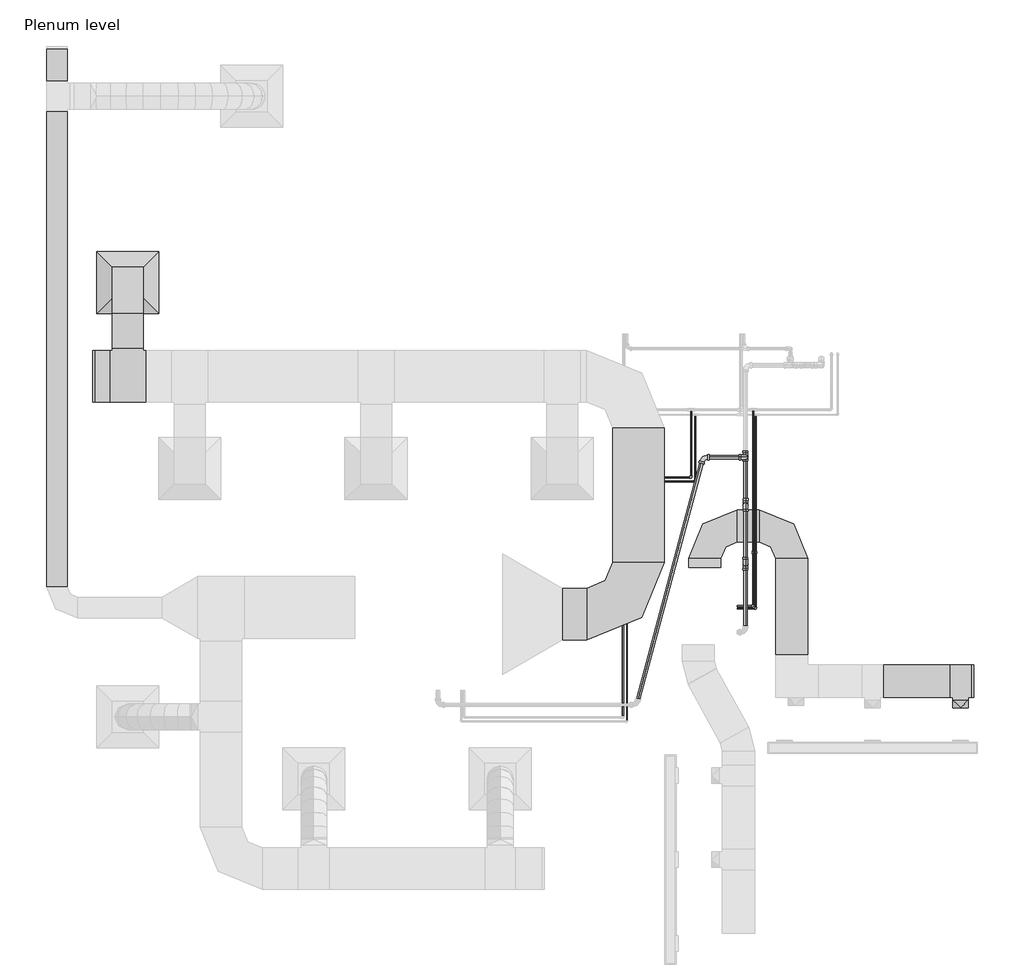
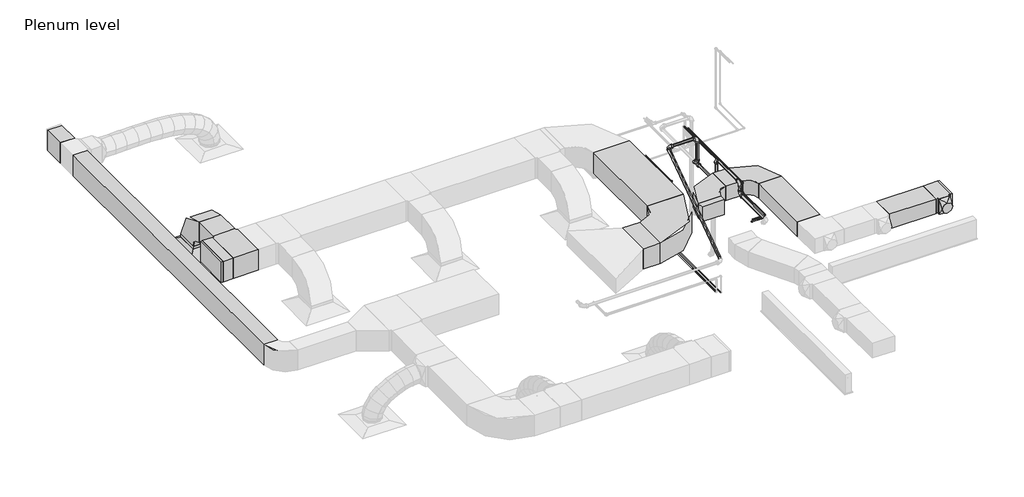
# One storey, part 3 of 5: 22 pipe segments, 17 pipe fittings, 11 duct segments, 9 duct fittings, 1 air terminal.
"""IFC4 building model written with IfcOpenShell, lengths in millimetres."""

from ifc_helpers import new_model, si_unit, point, frame, frame_2d, origin, place, context, project, spatial, polyline, circle_curve, trimmed, segment, composite_curve, outline, extrude, transform, mapped, element, save
from components import m_return_diffuser_600_x_600_face_300_x_300_connection_ff221211, m_rectangular_elbow_radius_1_w_01ab3e9f, m_rectangular_elbow_radius_1_w_abe20169, m_rectangular_elbow_radius_1_w_618da153, m_rectangular_endcap_standard_8fce0436, m_rectangular_endcap_standard_72d4d00d, m_rectangular_tee_standard_e86e679a, m_rectangular_tee_standard_67f42514, m_rectangular_to_round_transition_angle_45_degree_d6eaa12c, m_bend_pvc_sch_40_dwv_standard_04e582cf, m_bend_pvc_sch_40_dwv_standard_2cf6a8d3, m_elbow_welded_generic_standard_3d1f096c, m_elbow_welded_generic_standard_8e0ccdf9, m_tee_sanitary_pvc_sch_40_dwv_standard_e0c783f1

model = new_model("IFC4")

# Units and contexts
model_context = context("Model", 3, world=origin())
ifc_project = project(units=[si_unit("LENGTHUNIT", "METRE", prefix="MILLI")], contexts=[model_context])

# Site, building, storey
site = spatial("IfcSite", under=ifc_project)
building = spatial("IfcBuilding", under=site)
storey = spatial("IfcBuildingStorey", under=building, Name="Plenum level", Elevation=2500.0)

# Air terminal
placement = place(None, origin())
m_return_diffuser_600_x_600_face_300_x_300_connection_shape = m_return_diffuser_600_x_600_face_300_x_300_connection_ff221211(model_context)
element("IfcAirTerminal", 1, ObjectType="M_Return Diffuser : 600 x 600 Face 300 x 300 Connection", at=placement, inside=storey, context=model_context, shape_type="MappedRepresentation", body=[
    mapped(m_return_diffuser_600_x_600_face_300_x_300_connection_shape, transform((-16262.9123896, 1344.5675672, 2500.0), x_axis=(1.0, 0.0, 0.0), y_axis=(0.0, 1.0, 0.0), z_axis=(0.0, 0.0, 1.0))),
])

# Duct fittings
m_rectangular_elbow_radius_1_w_shape = m_rectangular_elbow_radius_1_w_01ab3e9f(model_context)
element("IfcDuctFitting", 2, ObjectType="M_Rectangular Elbow - Radius : 1 W", at=placement, inside=storey, context=model_context, shape_type="MappedRepresentation", body=[
    mapped(m_rectangular_elbow_radius_1_w_shape, transform((-10685.2201033, -1010.0331325, 2741.2027987), x_axis=(-1.0, 0.0, 0.0), y_axis=(0.0, -0.9999999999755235, -6.9966481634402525e-06), z_axis=(0.0, -6.9966481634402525e-06, 0.9999999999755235))),
])
element("IfcDuctFitting", 3, ObjectType="M_Rectangular Elbow - Radius : 1 W", at=placement, inside=storey, context=model_context, shape_type="MappedRepresentation", body=[
    mapped(m_rectangular_elbow_radius_1_w_shape, transform((-9845.2201033, -1010.0331325, 2741.2027987), x_axis=(0.0, 1.0, 0.0), y_axis=(-1.0, 0.0, 0.0), z_axis=(0.0, 0.0, 1.0))),
])
m_rectangular_elbow_radius_1_w_2_shape = m_rectangular_elbow_radius_1_w_abe20169(model_context)
element("IfcDuctFitting", 4, ObjectType="M_Rectangular Elbow - Radius : 1 W", at=placement, inside=storey, context=model_context, shape_type="MappedRepresentation", body=[
    mapped(m_rectangular_elbow_radius_1_w_2_shape, transform((-11325.0225036, -1861.9074328, 2941.2), x_axis=(1.0, 0.0, 0.0), y_axis=(0.0, 1.0, 0.0), z_axis=(0.0, 0.0, 1.0))),
])
m_rectangular_elbow_radius_1_w_3_shape = m_rectangular_elbow_radius_1_w_618da153(model_context)
element("IfcDuctFitting", 5, ObjectType="M_Rectangular Elbow - Radius : 1 W", at=placement, inside=storey, context=model_context, shape_type="MappedRepresentation", body=[
    mapped(m_rectangular_elbow_radius_1_w_3_shape, transform((-16262.9123896, 1344.5675672, 2941.2), x_axis=(0.0, 1.0, 0.0), y_axis=(0.0, 0.0, -1.0), z_axis=(-1.0, 0.0, 0.0))),
])
m_rectangular_endcap_standard_shape = m_rectangular_endcap_standard_8fce0436(model_context)
element("IfcDuctFitting", 6, ObjectType="M_Rectangular Endcap : Standard", at=placement, inside=storey, context=model_context, shape_type="MappedRepresentation", body=[
    mapped(m_rectangular_endcap_standard_shape, transform((-8112.4123896, -2510.0324328, 2741.2027987), x_axis=(1.0, 0.0, 0.0), y_axis=(0.0, 1.0, 0.0), z_axis=(0.0, 0.0, 1.0))),
])
m_rectangular_endcap_standard_2_shape = m_rectangular_endcap_standard_72d4d00d(model_context)
element("IfcDuctFitting", 7, ObjectType="M_Rectangular Endcap : Standard", at=placement, inside=storey, context=model_context, shape_type="MappedRepresentation", body=[
    mapped(m_rectangular_endcap_standard_2_shape, transform((-16577.9123896, 438.0925672, 2941.2), x_axis=(-1.0, 0.0, 0.0), y_axis=(0.0, -1.0, 0.0), z_axis=(0.0, 0.0, 1.0))),
])
m_rectangular_tee_standard_shape = m_rectangular_tee_standard_e86e679a(model_context)
element("IfcDuctFitting", 8, ObjectType="M_Rectangular Tee : Standard", at=placement, inside=storey, context=model_context, shape_type="MappedRepresentation", body=[
    mapped(m_rectangular_tee_standard_shape, transform((-8212.4123896, -2510.0324328, 2741.2027987), x_axis=(1.0, 0.0, 0.0), y_axis=(0.0, 1.0, 0.0), z_axis=(0.0, 0.0, 1.0))),
])
m_rectangular_tee_standard_2_shape = m_rectangular_tee_standard_67f42514(model_context)
element("IfcDuctFitting", 9, ObjectType="M_Rectangular Tee : Standard", at=placement, inside=storey, context=model_context, shape_type="MappedRepresentation", body=[
    mapped(m_rectangular_tee_standard_2_shape, transform((-16262.9123896, 438.0925672, 2941.2), x_axis=(-1.0, 0.0, 0.0), y_axis=(0.0, -1.0, 0.0), z_axis=(0.0, 0.0, 1.0))),
])
m_rectangular_to_round_transition_angle_45_degree_shape = m_rectangular_to_round_transition_angle_45_degree_d6eaa12c(model_context)
element("IfcDuctFitting", 10, ObjectType="M_Rectangular to Round Transition - Angle : 45 Degree", at=placement, inside=storey, context=model_context, shape_type="MappedRepresentation", body=[
    mapped(m_rectangular_to_round_transition_angle_45_degree_shape, transform((-8212.4123896, -2690.9699328, 2741.2027987), x_axis=(0.0, -1.0, 0.0), y_axis=(1.0, 0.0, 0.0), z_axis=(0.0, 0.0, 1.0))),
])

# Duct segments
element("IfcDuctSegment", 11, ObjectType="Default", at=placement, inside=storey, context=model_context, shape_type="SweptSolid", body=[
    extrude(outline(polyline([(-10529.2826033, -1410.0324328), (-10841.1576033, -1410.0324328), (-10841.1576033, -1321.9081325), (-10529.2826033, -1321.9081325), (-10529.2826033, -1410.0324328)])), frame((0.0, 0.0, 2634.05), z_axis=(0.0, 0.0, 1.0), x_axis=(1.0, 0.0, 0.0)), (0.0, 0.0, 1.0), 214.3),
])
element("IfcDuctSegment", 12, ObjectType="Default", at=placement, inside=storey, context=model_context, shape_type="SweptSolid", body=[
    extrude(outline(polyline([(-10373.3451033, -1165.9706325), (-10373.3451033, -854.0956325), (-10157.0951033, -854.0956325), (-10157.0951033, -1165.9706325), (-10373.3451033, -1165.9706325)])), frame((0.0, 0.0, 2634.0527987), z_axis=(0.0, 0.0, 1.0), x_axis=(1.0, 0.0, 0.0)), (0.0, 0.0, 1.0), 214.3),
])
element("IfcDuctSegment", 13, ObjectType="Default", at=placement, inside=storey, context=model_context, shape_type="SweptSolid", body=[
    extrude(outline(polyline([(-10001.1576033, -1321.9081325), (-9689.2826033, -1321.9081325), (-9689.2826033, -2254.0949328), (-10001.1576033, -2254.0949328), (-10001.1576033, -1321.9081325)])), frame((0.0, 0.0, 2634.0527987), z_axis=(0.0, 0.0, 1.0), x_axis=(1.0, 0.0, 0.0)), (0.0, 0.0, 1.0), 214.3),
])
element("IfcDuctSegment", 14, ObjectType="Default", at=placement, inside=storey, context=model_context, shape_type="SweptSolid", body=[
    extrude(outline(polyline([(-8962.9123896, -2665.9699328), (-8962.9123896, -2354.0949328), (-8312.4123896, -2354.0949328), (-8312.4123896, -2665.9699328), (-8962.9123896, -2665.9699328)])), frame((0.0, 0.0, 2634.0527987), z_axis=(0.0, 0.0, 1.0), x_axis=(1.0, 0.0, 0.0)), (0.0, 0.0, 1.0), 214.3),
])
element("IfcDuctSegment", 15, ObjectType="Default", at=placement, inside=storey, context=model_context, shape_type="SweptSolid", body=[
    extrude(outline(polyline([(-16847.2723444, 3294.5675672), (-17047.2723444, 3294.5675672), (-17047.2723444, 3601.5909932), (-16847.2723444, 3601.5909932), (-16847.2723444, 3294.5675672)])), frame((0.0, 0.0, 2815.8858813), z_axis=(0.0, 0.0, 1.0), x_axis=(1.0, 0.0, 0.0)), (0.0, 0.0, 1.0), 300.0),
])
element("IfcDuctSegment", 16, ObjectType="Default", at=placement, inside=storey, context=model_context, shape_type="SweptSolid", body=[
    extrude(outline(polyline([(0.0, -200.0), (0.0, 0.0), (4592.9750001, 0.0), (4592.9750001, -200.0), (0.0, -200.0)])), frame((-17047.2723444, -1598.4066458, 2815.8602097), z_axis=(0.0, -5.246621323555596e-06, 0.9999999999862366), x_axis=(0.0, 0.9999999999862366, 5.246621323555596e-06)), (0.0, 0.0, 1.0), 300.0),
])
element("IfcDuctSegment", 17, ObjectType="Default", at=placement, inside=storey, context=model_context, shape_type="SweptSolid", body=[
    extrude(outline(polyline([(-12065.0225036, -2111.9074328), (-12065.0225036, -1611.9074328), (-11825.0225036, -1611.9074328), (-11825.0225036, -2111.9074328), (-12065.0225036, -2111.9074328)])), frame((0.0, 0.0, 2791.2), z_axis=(0.0, 0.0, 1.0), x_axis=(1.0, 0.0, 0.0)), (0.0, 0.0, 1.0), 300.0),
])
element("IfcDuctSegment", 18, ObjectType="Default", at=placement, inside=storey, context=model_context, shape_type="SweptSolid", body=[
    extrude(outline(polyline([(-11075.0225036, -1361.9074328), (-11575.0225036, -1361.9074328), (-11575.0225036, -61.9074328), (-11075.0225036, -61.9074328), (-11075.0225036, -1361.9074328)])), frame((0.0, 0.0, 2791.2), z_axis=(0.0, 0.0, 1.0), x_axis=(1.0, 0.0, 0.0)), (0.0, 0.0, 1.0), 300.0),
])
element("IfcDuctSegment", 19, ObjectType="Default", at=placement, inside=storey, context=model_context, shape_type="SweptSolid", body=[
    extrude(outline(polyline([(-16437.9123896, 688.0925672), (-16437.9123896, 188.0925672), (-16577.9123896, 188.0925672), (-16577.9123896, 688.0925672), (-16437.9123896, 688.0925672)])), frame((0.0, 0.0, 2791.2), z_axis=(0.0, 0.0, 1.0), x_axis=(1.0, 0.0, 0.0)), (0.0, 0.0, 1.0), 300.0),
])
element("IfcDuctSegment", 20, ObjectType="Default", at=placement, inside=storey, context=model_context, shape_type="SweptSolid", body=[
    extrude(outline(polyline([(-16112.9123896, 1194.5675672), (-16412.9123896, 1194.5675672), (-16412.9123896, 1494.5675672), (-16112.9123896, 1494.5675672), (-16112.9123896, 1194.5675672)])), frame((0.0, 0.0, 2601.6), z_axis=(0.0, 0.0, 1.0), x_axis=(1.0, 0.0, 0.0)), (0.0, 0.0, 1.0), 39.6),
])
element("IfcDuctSegment", 21, ObjectType="Default", at=placement, inside=storey, context=model_context, shape_type="SweptSolid", body=[
    extrude(outline(polyline([(-16112.9123896, 713.0925672), (-16412.9123896, 713.0925672), (-16412.9123896, 1044.5675672), (-16112.9123896, 1044.5675672), (-16112.9123896, 713.0925672)])), frame((0.0, 0.0, 2791.2), z_axis=(0.0, 0.0, 1.0), x_axis=(1.0, 0.0, 0.0)), (0.0, 0.0, 1.0), 300.0),
])

# Pipe fittings
m_bend_pvc_sch_40_dwv_standard_shape = m_bend_pvc_sch_40_dwv_standard_04e582cf(model_context)
element("IfcPipeFitting", 22, ObjectType="M_Bend - PVC - Sch 40 - DWV : Standard", at=placement, inside=storey, context=model_context, shape_type="MappedRepresentation", body=[
    mapped(m_bend_pvc_sch_40_dwv_standard_shape, transform((-10292.1201033, -344.5113836, 3033.3), x_axis=(0.0, 0.0, 1.0), y_axis=(-1.0, 0.0, 0.0), z_axis=(0.0, -1.0, 0.0))),
])
element("IfcPipeFitting", 23, ObjectType="M_Bend - PVC - Sch 40 - DWV : Standard", at=placement, inside=storey, context=model_context, shape_type="MappedRepresentation", body=[
    mapped(m_bend_pvc_sch_40_dwv_standard_shape, transform((-10292.1201033, -1375.4324328, 2833.3), x_axis=(0.0, 1.0, 0.0), y_axis=(0.0, 0.0, 1.0), z_axis=(1.0, 0.0, 0.0))),
])
element("IfcPipeFitting", 24, ObjectType="M_Bend - PVC - Sch 40 - DWV : Standard", at=placement, inside=storey, context=model_context, shape_type="MappedRepresentation", body=[
    mapped(m_bend_pvc_sch_40_dwv_standard_shape, transform((-10292.1201033, -1375.4324328, 3000.0), x_axis=(0.0, 0.0, 1.0), y_axis=(0.0, 1.0, 0.0), z_axis=(-1.0, 0.0, 0.0))),
])
element("IfcPipeFitting", 25, ObjectType="M_Bend - PVC - Sch 40 - DWV : Standard", at=placement, inside=storey, context=model_context, shape_type="MappedRepresentation", body=[
    mapped(m_bend_pvc_sch_40_dwv_standard_shape, transform((-10292.1201033, -805.4324328, 3000.0), x_axis=(0.0, 1.0, 0.0), y_axis=(0.0, 0.0, -1.0), z_axis=(-1.0, 0.0, 0.0))),
])
element("IfcPipeFitting", 26, ObjectType="M_Bend - PVC - Sch 40 - DWV : Standard", at=placement, inside=storey, context=model_context, shape_type="MappedRepresentation", body=[
    mapped(m_bend_pvc_sch_40_dwv_standard_shape, transform((-10292.1201033, -805.4324328, 2650.0), x_axis=(0.0, 0.0, -1.0), y_axis=(0.0, 1.0, 0.0), z_axis=(1.0, 0.0, 0.0))),
])
m_bend_pvc_sch_40_dwv_standard_2_shape = m_bend_pvc_sch_40_dwv_standard_2cf6a8d3(model_context)
element("IfcPipeFitting", 27, ObjectType="M_Bend - PVC - Sch 40 - DWV : Standard", at=placement, inside=storey, context=model_context, shape_type="MappedRepresentation", body=[
    mapped(m_bend_pvc_sch_40_dwv_standard_2_shape, transform((-10701.7518359, -344.5113836, 3033.3), x_axis=(-1.0, 0.0, 0.0), y_axis=(0.0, -1.0, 0.0), z_axis=(0.0, 0.0, 1.0))),
])
m_elbow_welded_generic_standard_shape = m_elbow_welded_generic_standard_3d1f096c(model_context)
element("IfcPipeFitting", 28, ObjectType="M_Elbow - Welded - Generic : Standard", at=placement, inside=storey, context=model_context, shape_type="MappedRepresentation", body=[
    mapped(m_elbow_welded_generic_standard_shape, transform((-10217.1229021, -1785.4324328, 2700.0043378), x_axis=(0.9999999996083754, 0.0, 2.7986593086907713e-05), y_axis=(0.0, 1.0000000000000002, 0.0), z_axis=(-2.7986593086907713e-05, 0.0, 0.9999999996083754))),
])
element("IfcPipeFitting", 29, ObjectType="M_Elbow - Welded - Generic : Standard", at=placement, inside=storey, context=model_context, shape_type="MappedRepresentation", body=[
    mapped(m_elbow_welded_generic_standard_shape, transform((-10217.1229021, -1265.4324328, 2700.0043378), x_axis=(0.0, 1.0, 0.0), y_axis=(0.0, 0.0, 1.0), z_axis=(1.0, 0.0, 0.0))),
])
element("IfcPipeFitting", 30, ObjectType="M_Elbow - Welded - Generic : Standard", at=placement, inside=storey, context=model_context, shape_type="MappedRepresentation", body=[
    mapped(m_elbow_welded_generic_standard_shape, transform((-11476.7873896, -540.0074328, 2700.0), x_axis=(-1.0, 0.0, 0.0), y_axis=(0.0, -1.0, 0.0), z_axis=(0.0, 0.0, 1.0))),
])
element("IfcPipeFitting", 31, ObjectType="M_Elbow - Welded - Generic : Standard", at=placement, inside=storey, context=model_context, shape_type="MappedRepresentation", body=[
    mapped(m_elbow_welded_generic_standard_shape, transform((-10816.7873896, -540.0074328, 2700.0), x_axis=(1.0, 0.0, 0.0), y_axis=(0.0, 1.0, 0.0), z_axis=(0.0, 0.0, 1.0))),
])
element("IfcPipeFitting", 32, ObjectType="M_Elbow - Welded - Generic : Standard", at=placement, inside=storey, context=model_context, shape_type="MappedRepresentation", body=[
    mapped(m_elbow_welded_generic_standard_shape, transform((-10217.1201033, -1265.4324328, 2900.0), x_axis=(0.0, 0.0, 1.0), y_axis=(0.0, 1.0, 0.0), z_axis=(-1.0, 0.0, 0.0))),
])
m_elbow_welded_generic_standard_2_shape = m_elbow_welded_generic_standard_8e0ccdf9(model_context)
element("IfcPipeFitting", 33, ObjectType="M_Elbow - Welded - Generic : Standard", at=placement, inside=storey, context=model_context, shape_type="MappedRepresentation", body=[
    mapped(m_elbow_welded_generic_standard_2_shape, transform((-10192.1221024, -1810.4324328, 2750.8035982), x_axis=(0.9999999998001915, 0.0, 1.9990423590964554e-05), y_axis=(0.0, 1.0, 0.0), z_axis=(-1.9990423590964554e-05, 0.0, 0.9999999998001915))),
])
element("IfcPipeFitting", 34, ObjectType="M_Elbow - Welded - Generic : Standard", at=placement, inside=storey, context=model_context, shape_type="MappedRepresentation", body=[
    mapped(m_elbow_welded_generic_standard_2_shape, transform((-10192.1221024, -1265.4324328, 2750.8035982), x_axis=(0.0, 1.0, 0.0), y_axis=(0.0, 0.0, 1.0), z_axis=(1.0, 0.0, 0.0))),
])
element("IfcPipeFitting", 35, ObjectType="M_Elbow - Welded - Generic : Standard", at=placement, inside=storey, context=model_context, shape_type="MappedRepresentation", body=[
    mapped(m_elbow_welded_generic_standard_2_shape, transform((-11438.6873896, -580.0074328, 2700.0), x_axis=(-1.0, 0.0, 0.0), y_axis=(0.0, -1.0, 0.0), z_axis=(0.0, 0.0, 1.0))),
])
element("IfcPipeFitting", 36, ObjectType="M_Elbow - Welded - Generic : Standard", at=placement, inside=storey, context=model_context, shape_type="MappedRepresentation", body=[
    mapped(m_elbow_welded_generic_standard_2_shape, transform((-10778.6873896, -580.0074328, 2700.0), x_axis=(1.0, 0.0, 0.0), y_axis=(0.0, 1.0, 0.0), z_axis=(0.0, 0.0, 1.0))),
])
element("IfcPipeFitting", 37, ObjectType="M_Elbow - Welded - Generic : Standard", at=placement, inside=storey, context=model_context, shape_type="MappedRepresentation", body=[
    mapped(m_elbow_welded_generic_standard_2_shape, transform((-10192.1201033, -1265.4324328, 2900.0), x_axis=(0.0, 0.0, 1.0), y_axis=(0.0, 1.0, 0.0), z_axis=(-1.0, 0.0, 0.0))),
])
m_tee_sanitary_pvc_sch_40_dwv_standard_shape = m_tee_sanitary_pvc_sch_40_dwv_standard_e0c783f1(model_context)
element("IfcPipeFitting", 38, ObjectType="M_Tee Sanitary - PVC - Sch 40 - DWV : Standard", at=placement, inside=storey, context=model_context, shape_type="MappedRepresentation", body=[
    mapped(m_tee_sanitary_pvc_sch_40_dwv_standard_shape, transform((-10292.1201033, -344.5113836, 2650.0), x_axis=(0.0, -1.0, 0.0), y_axis=(0.0, 0.0, -1.0), z_axis=(1.0, 0.0, 0.0))),
])

# Pipe segments
element("IfcPipeSegment", 39, ObjectType="COPPER PIPE", at=placement, inside=storey, context=model_context, shape_type="SweptSolid", body=[
    extrude(outline(composite_curve([segment(trimmed(circle_curve(frame_2d((0.0, 6.5)), 6.5), [point((-6.5, 6.5))], [point((0.0, 13.0))], False, "CARTESIAN"), True, "CONTINUOUS"), segment(trimmed(circle_curve(frame_2d((0.0, 6.5)), 6.5), [point((0.0, 13.0))], [point((6.5, 6.5))], False, "CARTESIAN"), True, "CONTINUOUS"), segment(trimmed(circle_curve(frame_2d((0.0, 6.5)), 6.5), [point((6.5, 6.5))], [point((0.0, 0.0))], False, "CARTESIAN"), True, "CONTINUOUS"), segment(trimmed(circle_curve(frame_2d((0.0, 6.5)), 6.5), [point((0.0, 0.0))], [point((-6.5, 6.5))], False, "CARTESIAN"), True, "CONTINUOUS")], self_intersect=False)), frame((-10372.1199214, -1785.4324328, 2693.5), z_axis=(0.9999999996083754, 0.0, 2.798659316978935e-05), x_axis=(0.0, 1.0, 0.0)), (0.0, 0.0, 1.0), 140.2382169),
])
element("IfcPipeSegment", 40, ObjectType="COPPER PIPE", at=placement, inside=storey, context=model_context, shape_type="SweptSolid", body=[
    extrude(outline(composite_curve([segment(trimmed(circle_curve(frame_2d((2700.0043378, -10217.1229021)), 6.5), [point((2700.0043378, -10210.6229021))], [point((2706.5043378, -10217.1229021))], False, "CARTESIAN"), True, "CONTINUOUS"), segment(trimmed(circle_curve(frame_2d((2700.0043378, -10217.1229021)), 6.5), [point((2706.5043378, -10217.1229021))], [point((2700.0043378, -10223.6229021))], False, "CARTESIAN"), True, "CONTINUOUS"), segment(trimmed(circle_curve(frame_2d((2700.0043378, -10217.1229021)), 6.5), [point((2700.0043378, -10223.6229021))], [point((2693.5043378, -10217.1229021))], False, "CARTESIAN"), True, "CONTINUOUS"), segment(trimmed(circle_curve(frame_2d((2700.0043378, -10217.1229021)), 6.5), [point((2693.5043378, -10217.1229021))], [point((2700.0043378, -10210.6229021))], False, "CARTESIAN"), True, "CONTINUOUS")], self_intersect=False)), frame((0.0, -1770.6734484, 0.0), z_axis=(0.0, 1.0, 0.0), x_axis=(0.0, 0.0, 1.0)), (0.0, 0.0, 1.0), 490.4820313),
])
element("IfcPipeSegment", 41, ObjectType="COPPER PIPE", at=placement, inside=storey, context=model_context, shape_type="SweptSolid", body=[
    extrude(outline(composite_curve([segment(trimmed(circle_curve(frame_2d((0.0, 3.5)), 3.5), [point((-3.5, 3.5))], [point((0.0, 7.0))], False, "CARTESIAN"), True, "CONTINUOUS"), segment(trimmed(circle_curve(frame_2d((0.0, 3.5)), 3.5), [point((0.0, 7.0))], [point((3.5, 3.5))], False, "CARTESIAN"), True, "CONTINUOUS"), segment(trimmed(circle_curve(frame_2d((0.0, 3.5)), 3.5), [point((3.5, 3.5))], [point((0.0, 0.0))], False, "CARTESIAN"), True, "CONTINUOUS"), segment(trimmed(circle_curve(frame_2d((0.0, 3.5)), 3.5), [point((0.0, 0.0))], [point((-3.5, 3.5))], False, "CARTESIAN"), True, "CONTINUOUS")], self_intersect=False)), frame((-10372.1200333, -1810.4324328, 2747.3), z_axis=(0.9999999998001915, 0.0, 1.999042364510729e-05), x_axis=(0.0, 1.0, 0.0)), (0.0, 0.0, 1.0), 168.3890165),
])
element("IfcPipeSegment", 42, ObjectType="COPPER PIPE", at=placement, inside=storey, context=model_context, shape_type="SweptSolid", body=[
    extrude(outline(composite_curve([segment(trimmed(circle_curve(frame_2d((2750.8035982, -10192.1221024)), 3.5), [point((2750.8035982, -10188.6221024))], [point((2754.3035982, -10192.1221024))], False, "CARTESIAN"), True, "CONTINUOUS"), segment(trimmed(circle_curve(frame_2d((2750.8035982, -10192.1221024)), 3.5), [point((2754.3035982, -10192.1221024))], [point((2750.8035982, -10195.6221024))], False, "CARTESIAN"), True, "CONTINUOUS"), segment(trimmed(circle_curve(frame_2d((2750.8035982, -10192.1221024)), 3.5), [point((2750.8035982, -10195.6221024))], [point((2747.3035982, -10192.1221024))], False, "CARTESIAN"), True, "CONTINUOUS"), segment(trimmed(circle_curve(frame_2d((2750.8035982, -10192.1221024)), 3.5), [point((2747.3035982, -10192.1221024))], [point((2750.8035982, -10188.6221024))], False, "CARTESIAN"), True, "CONTINUOUS")], self_intersect=False)), frame((0.0, -1798.8234484, 0.0), z_axis=(0.0, 1.0, 0.0), x_axis=(0.0, 0.0, 1.0)), (0.0, 0.0, 1.0), 521.7820313),
])
element("IfcPipeSegment", 43, ObjectType="COPPER PIPE", at=placement, inside=storey, context=model_context, shape_type="SweptSolid", body=[
    extrude(outline(composite_curve([segment(trimmed(circle_curve(frame_2d((2900.0, -10217.1201033)), 6.5), [point((2900.0, -10210.6201033))], [point((2906.5, -10217.1201033))], False, "CARTESIAN"), True, "CONTINUOUS"), segment(trimmed(circle_curve(frame_2d((2900.0, -10217.1201033)), 6.5), [point((2906.5, -10217.1201033))], [point((2900.0, -10223.6201033))], False, "CARTESIAN"), True, "CONTINUOUS"), segment(trimmed(circle_curve(frame_2d((2900.0, -10217.1201033)), 6.5), [point((2900.0, -10223.6201033))], [point((2893.5, -10217.1201033))], False, "CARTESIAN"), True, "CONTINUOUS"), segment(trimmed(circle_curve(frame_2d((2900.0, -10217.1201033)), 6.5), [point((2893.5, -10217.1201033))], [point((2900.0, -10210.6201033))], False, "CARTESIAN"), True, "CONTINUOUS")], self_intersect=False)), frame((0.0, -1250.6734484, 0.0), z_axis=(0.0, 1.0, 0.0), x_axis=(0.0, 0.0, 1.0)), (0.0, 0.0, 1.0), 1350.4820313),
])
element("IfcPipeSegment", 44, ObjectType="COPPER PIPE", at=placement, inside=storey, context=model_context, shape_type="SweptSolid", body=[
    extrude(outline(composite_curve([segment(trimmed(circle_curve(frame_2d((0.0, 6.5)), 6.5), [point((-6.5, 6.5))], [point((0.0, 13.0))], False, "CARTESIAN"), True, "CONTINUOUS"), segment(trimmed(circle_curve(frame_2d((0.0, 6.5)), 6.5), [point((0.0, 13.0))], [point((6.5, 6.5))], False, "CARTESIAN"), True, "CONTINUOUS"), segment(trimmed(circle_curve(frame_2d((0.0, 6.5)), 6.5), [point((6.5, 6.5))], [point((0.0, 0.0))], False, "CARTESIAN"), True, "CONTINUOUS"), segment(trimmed(circle_curve(frame_2d((0.0, 6.5)), 6.5), [point((0.0, 0.0))], [point((-6.5, 6.5))], False, "CARTESIAN"), True, "CONTINUOUS")], self_intersect=False)), frame((-10217.1229021, -1271.9324328, 2714.7633222), z_axis=(1.6417284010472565e-05, 0.0, 0.9999999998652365), x_axis=(0.9999999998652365, 0.0, -1.6417284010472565e-05)), (0.0, 0.0, 1.0), 170.4776934),
])
element("IfcPipeSegment", 45, ObjectType="COPPER PIPE", at=placement, inside=storey, context=model_context, shape_type="SweptSolid", body=[
    extrude(outline(composite_curve([segment(trimmed(circle_curve(frame_2d((2900.0, -10192.1201033)), 3.5), [point((2900.0, -10188.6201033))], [point((2903.5, -10192.1201033))], False, "CARTESIAN"), True, "CONTINUOUS"), segment(trimmed(circle_curve(frame_2d((2900.0, -10192.1201033)), 3.5), [point((2903.5, -10192.1201033))], [point((2900.0, -10195.6201033))], False, "CARTESIAN"), True, "CONTINUOUS"), segment(trimmed(circle_curve(frame_2d((2900.0, -10192.1201033)), 3.5), [point((2900.0, -10195.6201033))], [point((2896.5, -10192.1201033))], False, "CARTESIAN"), True, "CONTINUOUS"), segment(trimmed(circle_curve(frame_2d((2900.0, -10192.1201033)), 3.5), [point((2896.5, -10192.1201033))], [point((2900.0, -10188.6201033))], False, "CARTESIAN"), True, "CONTINUOUS")], self_intersect=False)), frame((0.0, -1253.8234484, 0.0), z_axis=(0.0, 1.0, 0.0), x_axis=(0.0, 0.0, 1.0)), (0.0, 0.0, 1.0), 1306.7820313),
])
element("IfcPipeSegment", 46, ObjectType="COPPER PIPE", at=placement, inside=storey, context=model_context, shape_type="SweptSolid", body=[
    extrude(outline(composite_curve([segment(trimmed(circle_curve(frame_2d((0.0, 3.5)), 3.5), [point((-3.5, 3.5))], [point((0.0, 7.0))], False, "CARTESIAN"), True, "CONTINUOUS"), segment(trimmed(circle_curve(frame_2d((0.0, 3.5)), 3.5), [point((0.0, 7.0))], [point((3.5, 3.5))], False, "CARTESIAN"), True, "CONTINUOUS"), segment(trimmed(circle_curve(frame_2d((0.0, 3.5)), 3.5), [point((3.5, 3.5))], [point((0.0, 0.0))], False, "CARTESIAN"), True, "CONTINUOUS"), segment(trimmed(circle_curve(frame_2d((0.0, 3.5)), 3.5), [point((0.0, 0.0))], [point((-3.5, 3.5))], False, "CARTESIAN"), True, "CONTINUOUS")], self_intersect=False)), frame((-10192.1221024, -1268.9324328, 2762.4125826), z_axis=(1.5868702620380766e-05, 0.0, 0.9999999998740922), x_axis=(0.9999999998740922, 0.0, -1.5868702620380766e-05)), (0.0, 0.0, 1.0), 125.978433),
])
element("IfcPipeSegment", 47, ObjectType="COPPER PIPE", at=placement, inside=storey, context=model_context, shape_type="SweptSolid", body=[
    extrude(outline(composite_curve([segment(trimmed(circle_curve(frame_2d((2700.0, -11476.7873896)), 6.5), [point((2700.0, -11470.2873896))], [point((2706.5, -11476.7873896))], False, "CARTESIAN"), True, "CONTINUOUS"), segment(trimmed(circle_curve(frame_2d((2700.0, -11476.7873896)), 6.5), [point((2706.5, -11476.7873896))], [point((2700.0, -11483.2873896))], False, "CARTESIAN"), True, "CONTINUOUS"), segment(trimmed(circle_curve(frame_2d((2700.0, -11476.7873896)), 6.5), [point((2700.0, -11483.2873896))], [point((2693.5, -11476.7873896))], False, "CARTESIAN"), True, "CONTINUOUS"), segment(trimmed(circle_curve(frame_2d((2700.0, -11476.7873896)), 6.5), [point((2693.5, -11476.7873896))], [point((2700.0, -11470.2873896))], False, "CARTESIAN"), True, "CONTINUOUS")], self_intersect=False)), frame((0.0, -2845.2484484, 0.0), z_axis=(0.0, 1.0, 0.0), x_axis=(0.0, 0.0, 1.0)), (0.0, 0.0, 1.0), 2290.4820313),
])
element("IfcPipeSegment", 48, ObjectType="COPPER PIPE", at=placement, inside=storey, context=model_context, shape_type="SweptSolid", body=[
    extrude(outline(composite_curve([segment(trimmed(circle_curve(frame_2d((2700.0, -11438.6873896)), 3.5), [point((2700.0, -11435.1873896))], [point((2703.5, -11438.6873896))], False, "CARTESIAN"), True, "CONTINUOUS"), segment(trimmed(circle_curve(frame_2d((2700.0, -11438.6873896)), 3.5), [point((2703.5, -11438.6873896))], [point((2700.0, -11442.1873896))], False, "CARTESIAN"), True, "CONTINUOUS"), segment(trimmed(circle_curve(frame_2d((2700.0, -11438.6873896)), 3.5), [point((2700.0, -11442.1873896))], [point((2696.5, -11438.6873896))], False, "CARTESIAN"), True, "CONTINUOUS"), segment(trimmed(circle_curve(frame_2d((2700.0, -11438.6873896)), 3.5), [point((2696.5, -11438.6873896))], [point((2700.0, -11435.1873896))], False, "CARTESIAN"), True, "CONTINUOUS")], self_intersect=False)), frame((0.0, -2888.3984484, 0.0), z_axis=(0.0, 1.0, 0.0), x_axis=(0.0, 0.0, 1.0)), (0.0, 0.0, 1.0), 2296.7820313),
])
element("IfcPipeSegment", 49, ObjectType="COPPER PIPE", at=placement, inside=storey, context=model_context, shape_type="SweptSolid", body=[
    extrude(outline(composite_curve([segment(trimmed(circle_curve(frame_2d((-580.0074328, 2700.0)), 3.5), [point((-583.5074328, 2700.0))], [point((-580.0074328, 2703.5))], False, "CARTESIAN"), True, "CONTINUOUS"), segment(trimmed(circle_curve(frame_2d((-580.0074328, 2700.0)), 3.5), [point((-580.0074328, 2703.5))], [point((-576.5074328, 2700.0))], False, "CARTESIAN"), True, "CONTINUOUS"), segment(trimmed(circle_curve(frame_2d((-580.0074328, 2700.0)), 3.5), [point((-576.5074328, 2700.0))], [point((-580.0074328, 2696.5))], False, "CARTESIAN"), True, "CONTINUOUS"), segment(trimmed(circle_curve(frame_2d((-580.0074328, 2700.0)), 3.5), [point((-580.0074328, 2696.5))], [point((-583.5074328, 2700.0))], False, "CARTESIAN"), True, "CONTINUOUS")], self_intersect=False)), frame((-11427.0784052, 0.0, 0.0), z_axis=(1.0, 0.0, 0.0), x_axis=(0.0, 1.0, 0.0)), (0.0, 0.0, 1.0), 636.7820313),
])
element("IfcPipeSegment", 50, ObjectType="COPPER PIPE", at=placement, inside=storey, context=model_context, shape_type="SweptSolid", body=[
    extrude(outline(composite_curve([segment(trimmed(circle_curve(frame_2d((2700.0, -10778.6873896)), 3.5), [point((2700.0, -10775.1873896))], [point((2703.5, -10778.6873896))], False, "CARTESIAN"), True, "CONTINUOUS"), segment(trimmed(circle_curve(frame_2d((2700.0, -10778.6873896)), 3.5), [point((2703.5, -10778.6873896))], [point((2700.0, -10782.1873896))], False, "CARTESIAN"), True, "CONTINUOUS"), segment(trimmed(circle_curve(frame_2d((2700.0, -10778.6873896)), 3.5), [point((2700.0, -10782.1873896))], [point((2696.5, -10778.6873896))], False, "CARTESIAN"), True, "CONTINUOUS"), segment(trimmed(circle_curve(frame_2d((2700.0, -10778.6873896)), 3.5), [point((2696.5, -10778.6873896))], [point((2700.0, -10775.1873896))], False, "CARTESIAN"), True, "CONTINUOUS")], self_intersect=False)), frame((0.0, -568.3984484, 0.0), z_axis=(0.0, 1.0, 0.0), x_axis=(0.0, 0.0, 1.0)), (0.0, 0.0, 1.0), 621.3570313),
])
element("IfcPipeSegment", 51, ObjectType="COPPER PIPE", at=placement, inside=storey, context=model_context, shape_type="SweptSolid", body=[
    extrude(outline(composite_curve([segment(trimmed(circle_curve(frame_2d((-540.0074328, 2700.0)), 6.5), [point((-546.5074328, 2700.0))], [point((-540.0074328, 2706.5))], False, "CARTESIAN"), True, "CONTINUOUS"), segment(trimmed(circle_curve(frame_2d((-540.0074328, 2700.0)), 6.5), [point((-540.0074328, 2706.5))], [point((-533.5074328, 2700.0))], False, "CARTESIAN"), True, "CONTINUOUS"), segment(trimmed(circle_curve(frame_2d((-540.0074328, 2700.0)), 6.5), [point((-533.5074328, 2700.0))], [point((-540.0074328, 2693.5))], False, "CARTESIAN"), True, "CONTINUOUS"), segment(trimmed(circle_curve(frame_2d((-540.0074328, 2700.0)), 6.5), [point((-540.0074328, 2693.5))], [point((-546.5074328, 2700.0))], False, "CARTESIAN"), True, "CONTINUOUS")], self_intersect=False)), frame((-11462.0284052, 0.0, 0.0), z_axis=(1.0, 0.0, 0.0), x_axis=(0.0, 1.0, 0.0)), (0.0, 0.0, 1.0), 630.4820313),
])
element("IfcPipeSegment", 52, ObjectType="COPPER PIPE", at=placement, inside=storey, context=model_context, shape_type="SweptSolid", body=[
    extrude(outline(composite_curve([segment(trimmed(circle_curve(frame_2d((2700.0, -10816.7873896)), 6.5), [point((2700.0, -10810.2873896))], [point((2706.5, -10816.7873896))], False, "CARTESIAN"), True, "CONTINUOUS"), segment(trimmed(circle_curve(frame_2d((2700.0, -10816.7873896)), 6.5), [point((2706.5, -10816.7873896))], [point((2700.0, -10823.2873896))], False, "CARTESIAN"), True, "CONTINUOUS"), segment(trimmed(circle_curve(frame_2d((2700.0, -10816.7873896)), 6.5), [point((2700.0, -10823.2873896))], [point((2693.5, -10816.7873896))], False, "CARTESIAN"), True, "CONTINUOUS"), segment(trimmed(circle_curve(frame_2d((2700.0, -10816.7873896)), 6.5), [point((2693.5, -10816.7873896))], [point((2700.0, -10810.2873896))], False, "CARTESIAN"), True, "CONTINUOUS")], self_intersect=False)), frame((0.0, -525.2484484, 0.0), z_axis=(0.0, 1.0, 0.0), x_axis=(0.0, 0.0, 1.0)), (0.0, 0.0, 1.0), 625.0570313),
])
element("IfcPipeSegment", 53, ObjectType="PVC - DWV", at=placement, inside=storey, context=model_context, shape_type="SweptSolid", body=[
    extrude(outline(composite_curve([segment(trimmed(circle_curve(frame_2d((0.0, 16.25)), 16.25), [point((16.25, 16.25))], [point((0.0, 0.0))], False, "CARTESIAN"), True, "CONTINUOUS"), segment(trimmed(circle_curve(frame_2d((0.0, 16.25)), 16.25), [point((0.0, 0.0))], [point((-16.25, 16.25))], False, "CARTESIAN"), True, "CONTINUOUS"), segment(trimmed(circle_curve(frame_2d((0.0, 16.25)), 16.25), [point((-16.25, 16.25))], [point((0.0, 32.5))], False, "CARTESIAN"), True, "CONTINUOUS"), segment(trimmed(circle_curve(frame_2d((0.0, 16.25)), 16.25), [point((0.0, 32.5))], [point((16.25, 16.25))], False, "CARTESIAN"), True, "CONTINUOUS")], self_intersect=False)), frame((-11327.9639817, -2681.5669281, 3049.55), z_axis=(0.25881904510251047, 0.9659258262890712, 0.0), x_axis=(0.9659258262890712, -0.25881904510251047, 0.0)), (0.0, 0.0, 1.0), 2358.995875),
])
element("IfcPipeSegment", 54, ObjectType="PVC - DWV", at=placement, inside=storey, context=model_context, shape_type="SweptSolid", body=[
    extrude(outline(composite_curve([segment(trimmed(circle_curve(frame_2d((-344.5113836, 3033.3)), 16.25), [point((-328.2613836, 3033.3))], [point((-344.5113836, 3017.05))], False, "CARTESIAN"), True, "CONTINUOUS"), segment(trimmed(circle_curve(frame_2d((-344.5113836, 3033.3)), 16.25), [point((-344.5113836, 3017.05))], [point((-360.7613836, 3033.3))], False, "CARTESIAN"), True, "CONTINUOUS"), segment(trimmed(circle_curve(frame_2d((-344.5113836, 3033.3)), 16.25), [point((-360.7613836, 3033.3))], [point((-344.5113836, 3049.55))], False, "CARTESIAN"), True, "CONTINUOUS"), segment(trimmed(circle_curve(frame_2d((-344.5113836, 3033.3)), 16.25), [point((-344.5113836, 3049.55))], [point((-328.2613836, 3033.3))], False, "CARTESIAN"), True, "CONTINUOUS")], self_intersect=False)), frame((-10641.2497734, 0.0, 0.0), z_axis=(1.0, 0.0, 0.0), x_axis=(0.0, 1.0, 0.0)), (0.0, 0.0, 1.0), 288.6276076),
])
element("IfcPipeSegment", 55, ObjectType="PVC - DWV", at=placement, inside=storey, context=model_context, shape_type="SweptSolid", body=[
    extrude(outline(composite_curve([segment(trimmed(circle_curve(frame_2d((-10292.1201033, -344.5113836)), 16.25), [point((-10308.3701033, -344.5113836))], [point((-10292.1201033, -328.2613836))], False, "CARTESIAN"), True, "CONTINUOUS"), segment(trimmed(circle_curve(frame_2d((-10292.1201033, -344.5113836)), 16.25), [point((-10292.1201033, -328.2613836))], [point((-10275.8701033, -344.5113836))], False, "CARTESIAN"), True, "CONTINUOUS"), segment(trimmed(circle_curve(frame_2d((-10292.1201033, -344.5113836)), 16.25), [point((-10275.8701033, -344.5113836))], [point((-10292.1201033, -360.7613836))], False, "CARTESIAN"), True, "CONTINUOUS"), segment(trimmed(circle_curve(frame_2d((-10292.1201033, -344.5113836)), 16.25), [point((-10292.1201033, -360.7613836))], [point((-10308.3701033, -344.5113836))], False, "CARTESIAN"), True, "CONTINUOUS")], self_intersect=False)), frame((0.0, 0.0, 2710.5020625), z_axis=(0.0, 0.0, 1.0), x_axis=(1.0, 0.0, 0.0)), (0.0, 0.0, 1.0), 262.295875),
])
element("IfcPipeSegment", 56, ObjectType="PVC - DWV", at=placement, inside=storey, context=model_context, shape_type="SweptSolid", body=[
    extrude(outline(composite_curve([segment(trimmed(circle_curve(frame_2d((2833.3, -10292.1201033)), 16.25), [point((2833.3, -10275.8701033))], [point((2849.55, -10292.1201033))], False, "CARTESIAN"), True, "CONTINUOUS"), segment(trimmed(circle_curve(frame_2d((2833.3, -10292.1201033)), 16.25), [point((2849.55, -10292.1201033))], [point((2833.3, -10308.3701033))], False, "CARTESIAN"), True, "CONTINUOUS"), segment(trimmed(circle_curve(frame_2d((2833.3, -10292.1201033)), 16.25), [point((2833.3, -10308.3701033))], [point((2817.05, -10292.1201033))], False, "CARTESIAN"), True, "CONTINUOUS"), segment(trimmed(circle_curve(frame_2d((2833.3, -10292.1201033)), 16.25), [point((2817.05, -10292.1201033))], [point((2833.3, -10275.8701033))], False, "CARTESIAN"), True, "CONTINUOUS")], self_intersect=False)), frame((0.0, -1974.9303703, 0.0), z_axis=(0.0, 1.0, 0.0), x_axis=(0.0, 0.0, 1.0)), (0.0, 0.0, 1.0), 538.995875),
])
element("IfcPipeSegment", 57, ObjectType="PVC - DWV", at=placement, inside=storey, context=model_context, shape_type="SweptSolid", body=[
    extrude(outline(composite_curve([segment(trimmed(circle_curve(frame_2d((3000.0, -10292.1201033)), 16.25), [point((3000.0, -10275.8701033))], [point((3016.25, -10292.1201033))], False, "CARTESIAN"), True, "CONTINUOUS"), segment(trimmed(circle_curve(frame_2d((3000.0, -10292.1201033)), 16.25), [point((3016.25, -10292.1201033))], [point((3000.0, -10308.3701033))], False, "CARTESIAN"), True, "CONTINUOUS"), segment(trimmed(circle_curve(frame_2d((3000.0, -10292.1201033)), 16.25), [point((3000.0, -10308.3701033))], [point((2983.75, -10292.1201033))], False, "CARTESIAN"), True, "CONTINUOUS"), segment(trimmed(circle_curve(frame_2d((3000.0, -10292.1201033)), 16.25), [point((2983.75, -10292.1201033))], [point((3000.0, -10275.8701033))], False, "CARTESIAN"), True, "CONTINUOUS")], self_intersect=False)), frame((0.0, -1314.9303703, 0.0), z_axis=(0.0, 1.0, 0.0), x_axis=(0.0, 0.0, 1.0)), (0.0, 0.0, 1.0), 448.995875),
])
element("IfcPipeSegment", 58, ObjectType="PVC - DWV", at=placement, inside=storey, context=model_context, shape_type="SweptSolid", body=[
    extrude(outline(composite_curve([segment(trimmed(circle_curve(frame_2d((-10292.1201033, -1375.4324328)), 16.25), [point((-10308.3701033, -1375.4324328))], [point((-10292.1201033, -1359.1824328))], False, "CARTESIAN"), True, "CONTINUOUS"), segment(trimmed(circle_curve(frame_2d((-10292.1201033, -1375.4324328)), 16.25), [point((-10292.1201033, -1359.1824328))], [point((-10275.8701033, -1375.4324328))], False, "CARTESIAN"), True, "CONTINUOUS"), segment(trimmed(circle_curve(frame_2d((-10292.1201033, -1375.4324328)), 16.25), [point((-10275.8701033, -1375.4324328))], [point((-10292.1201033, -1391.6824328))], False, "CARTESIAN"), True, "CONTINUOUS"), segment(trimmed(circle_curve(frame_2d((-10292.1201033, -1375.4324328)), 16.25), [point((-10292.1201033, -1391.6824328))], [point((-10308.3701033, -1375.4324328))], False, "CARTESIAN"), True, "CONTINUOUS")], self_intersect=False)), frame((0.0, 0.0, 2893.8020625), z_axis=(0.0, 0.0, 1.0), x_axis=(1.0, 0.0, 0.0)), (0.0, 0.0, 1.0), 45.695875),
])
element("IfcPipeSegment", 59, ObjectType="PVC - DWV", at=placement, inside=storey, context=model_context, shape_type="SweptSolid", body=[
    extrude(outline(composite_curve([segment(trimmed(circle_curve(frame_2d((2650.0, -10292.1201033)), 16.25), [point((2650.0, -10308.3701033))], [point((2633.75, -10292.1201033))], False, "CARTESIAN"), True, "CONTINUOUS"), segment(trimmed(circle_curve(frame_2d((2650.0, -10292.1201033)), 16.25), [point((2633.75, -10292.1201033))], [point((2650.0, -10275.8701033))], False, "CARTESIAN"), True, "CONTINUOUS"), segment(trimmed(circle_curve(frame_2d((2650.0, -10292.1201033)), 16.25), [point((2650.0, -10275.8701033))], [point((2666.25, -10292.1201033))], False, "CARTESIAN"), True, "CONTINUOUS"), segment(trimmed(circle_curve(frame_2d((2650.0, -10292.1201033)), 16.25), [point((2666.25, -10292.1201033))], [point((2650.0, -10308.3701033))], False, "CARTESIAN"), True, "CONTINUOUS")], self_intersect=False)), frame((0.0, -744.9303703, 0.0), z_axis=(0.0, 1.0, 0.0), x_axis=(0.0, 0.0, 1.0)), (0.0, 0.0, 1.0), 362.6633617),
])
element("IfcPipeSegment", 60, ObjectType="PVC - DWV", at=placement, inside=storey, context=model_context, shape_type="SweptSolid", body=[
    extrude(outline(composite_curve([segment(trimmed(circle_curve(frame_2d((-10292.1201033, -805.4324328)), 16.25), [point((-10275.8701033, -805.4324328))], [point((-10292.1201033, -821.6824328))], False, "CARTESIAN"), True, "CONTINUOUS"), segment(trimmed(circle_curve(frame_2d((-10292.1201033, -805.4324328)), 16.25), [point((-10292.1201033, -821.6824328))], [point((-10308.3701033, -805.4324328))], False, "CARTESIAN"), True, "CONTINUOUS"), segment(trimmed(circle_curve(frame_2d((-10292.1201033, -805.4324328)), 16.25), [point((-10308.3701033, -805.4324328))], [point((-10292.1201033, -789.1824328))], False, "CARTESIAN"), True, "CONTINUOUS"), segment(trimmed(circle_curve(frame_2d((-10292.1201033, -805.4324328)), 16.25), [point((-10292.1201033, -789.1824328))], [point((-10275.8701033, -805.4324328))], False, "CARTESIAN"), True, "CONTINUOUS")], self_intersect=False)), frame((0.0, 0.0, 2710.5020625), z_axis=(0.0, 0.0, 1.0), x_axis=(1.0, 0.0, 0.0)), (0.0, 0.0, 1.0), 228.995875),
])

save(model, "model.ifc")
